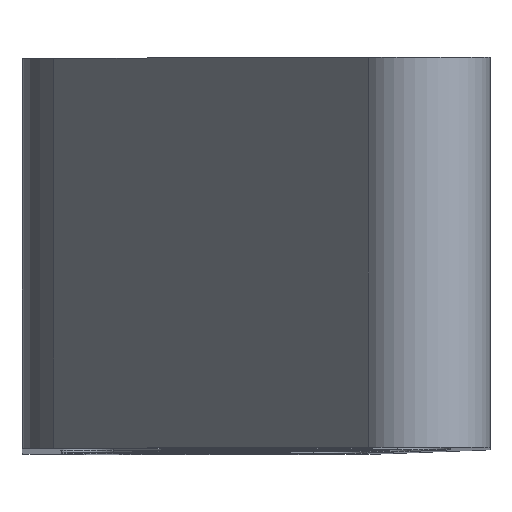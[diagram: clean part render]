
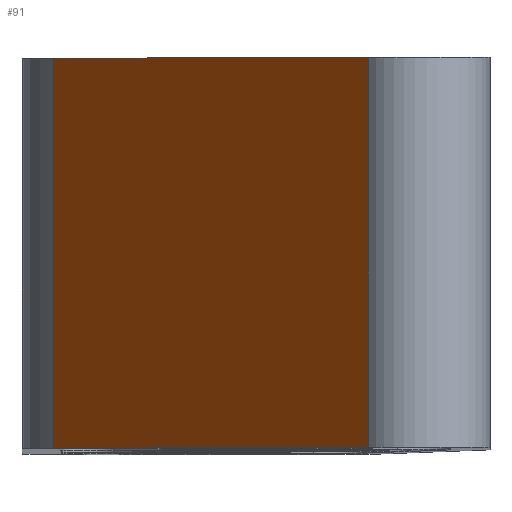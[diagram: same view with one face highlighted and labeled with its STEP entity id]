
A CAD part, top view. The second image highlights one B-rep face of the part: STEP entity #91.
In plain terms, the highlighted planar face has unit normal (-0.818, 0, 0.575).
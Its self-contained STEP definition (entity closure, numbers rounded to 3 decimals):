
#52=CARTESIAN_POINT('Axis2P3D Location',(-447.364,-71.5,188.674)) ;
#57=CARTESIAN_POINT('Line Origine',(-447.364,-61.5,188.674)) ;
#61=CARTESIAN_POINT('Vertex',(-447.364,-71.5,188.674)) ;
#63=CARTESIAN_POINT('Vertex',(-447.364,-51.5,188.674)) ;
#66=CARTESIAN_POINT('Line Origine',(-439.301,-71.5,200.149)) ;
#70=CARTESIAN_POINT('Vertex',(-431.237,-71.5,211.624)) ;
#73=CARTESIAN_POINT('Line Origine',(-431.237,-61.5,211.624)) ;
#77=CARTESIAN_POINT('Vertex',(-431.237,-51.5,211.624)) ;
#80=CARTESIAN_POINT('Line Origine',(-439.301,-51.5,200.149)) ;
#53=DIRECTION('Axis2P3D Direction',(-0.818,0.,0.575)) ;
#54=DIRECTION('Axis2P3D XDirection',(0.575,0.,0.818)) ;
#58=DIRECTION('Vector Direction',(0.,1.,0.)) ;
#67=DIRECTION('Vector Direction',(0.575,0.,0.818)) ;
#74=DIRECTION('Vector Direction',(0.,1.,0.)) ;
#81=DIRECTION('Vector Direction',(0.575,0.,0.818)) ;
#55=AXIS2_PLACEMENT_3D('Plane Axis2P3D',#52,#53,#54) ;
#86=ORIENTED_EDGE('',*,*,#65,.F.) ;
#87=ORIENTED_EDGE('',*,*,#72,.T.) ;
#88=ORIENTED_EDGE('',*,*,#79,.T.) ;
#89=ORIENTED_EDGE('',*,*,#84,.F.) ;
#59=VECTOR('Line Direction',#58,1.) ;
#68=VECTOR('Line Direction',#67,1.) ;
#75=VECTOR('Line Direction',#74,1.) ;
#82=VECTOR('Line Direction',#81,1.) ;
#91=ADVANCED_FACE('MAIN',(#90),#56,.T.) ;
#65=EDGE_CURVE('',#62,#64,#60,.T.) ;
#72=EDGE_CURVE('',#62,#71,#69,.T.) ;
#79=EDGE_CURVE('',#71,#78,#76,.T.) ;
#84=EDGE_CURVE('',#64,#78,#83,.T.) ;
#85=EDGE_LOOP('',(#86,#87,#88,#89)) ;
#90=FACE_OUTER_BOUND('',#85,.T.) ;
#60=LINE('Line',#57,#59) ;
#69=LINE('Line',#66,#68) ;
#76=LINE('Line',#73,#75) ;
#83=LINE('Line',#80,#82) ;
#56=PLANE('',#55) ;
#62=VERTEX_POINT('',#61) ;
#64=VERTEX_POINT('',#63) ;
#71=VERTEX_POINT('',#70) ;
#78=VERTEX_POINT('',#77) ;
